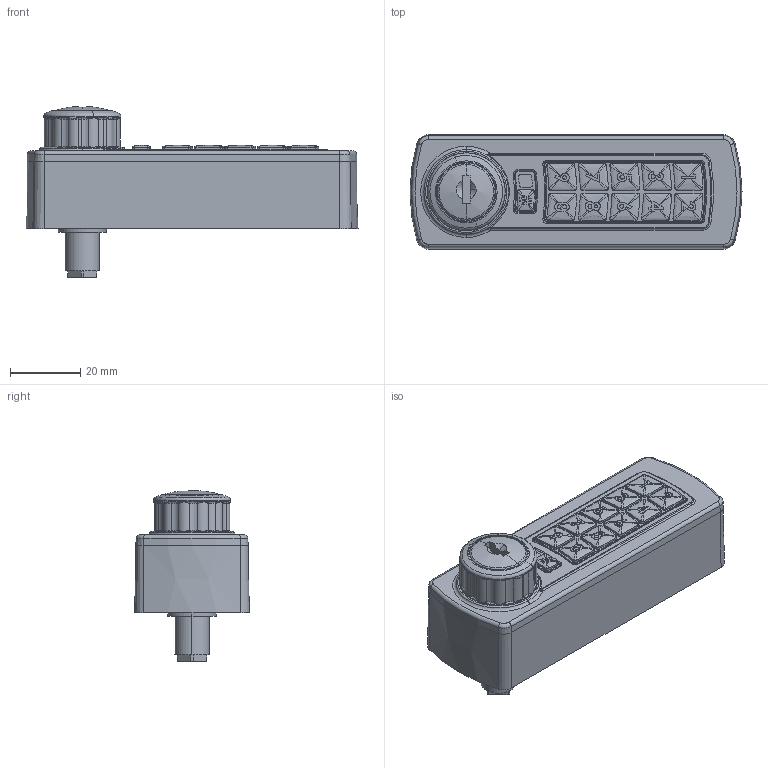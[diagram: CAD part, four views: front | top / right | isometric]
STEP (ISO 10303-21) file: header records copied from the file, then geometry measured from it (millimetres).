
FILE_DESCRIPTION (( 'STEP AP214' ), '1' );
FILE_NAME ('Gemini_D_3700011E.STEP', '2018-10-12T11:40:33', ( '' ), ( '' ), 'SwSTEP 2.0', 'SolidWorks 2018', '' );
FILE_SCHEMA (( 'AUTOMOTIVE_DESIGN' ));
Length unit declared in the file: millimetre
Products named in the file (15): 9226531_Lid; 8025052_def; 9226530_def; 8025051_def; 8580171_def; 9235422; 9247351; Gemini_D_3700011E
Assembly tree (7 placements, depth 2):
  9226531_Lid
  8025052_def
  9226530_def
  8025051_def
  9235422
Bounding box: 94.67 x 32.67 x 48.61 mm (x, y, z)
Volume: 41234.3 mm3; surface area: 42223.6 mm2
Topology: 7 solids, 7 shells, 1940 faces, 5022 edges, 3034 vertices
Faces by surface type: plane 728, bspline 486, cylinder 364, torus 191, cone 163, sphere 8
Entity records: 85448 total; most frequent: CARTESIAN_POINT 40244, ORIENTED_EDGE 9768, DIRECTION 7831, EDGE_CURVE 4884, VERTEX_POINT 3034, AXIS2_PLACEMENT_3D 2762, LINE 2307, VECTOR 2307
